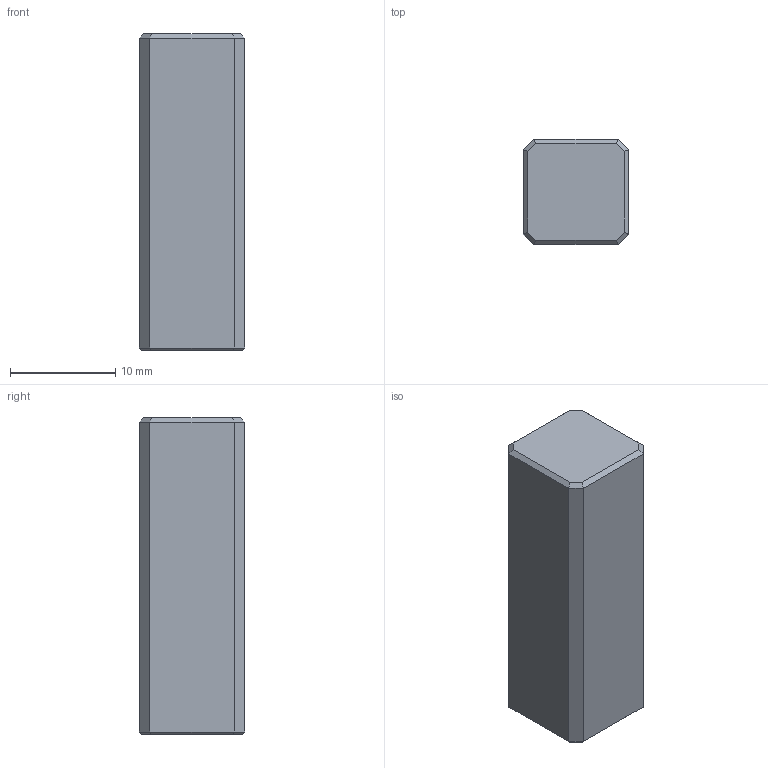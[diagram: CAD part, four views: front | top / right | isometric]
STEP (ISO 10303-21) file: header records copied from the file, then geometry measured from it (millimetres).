
FILE_DESCRIPTION(('Open CASCADE Model'),'2;1');
FILE_NAME('PN-PIN-knob-12','2026-10-19T21:24:15',('Author'),( 'Open CASCADE'),'Open CASCADE STEP processor 8.0','build123d', 'Unknown');
FILE_SCHEMA(('AUTOMOTIVE_DESIGN { 1 0 10303 214 1 1 1 1 }'));
Length unit declared in the file: millimetre
Products named in the file (2): PN-PIN-knob-12; brass_PN-PIN12__k
Assembly tree (1 placements, depth 2):
  PN-PIN-knob-12
    brass_PN-PIN12__k
Bounding box: 10 x 10 x 30 mm (x, y, z)
Volume: 2826.4 mm3; surface area: 1435 mm2
Topology: 1 solids, 1 shells, 30 faces, 62 edges, 36 vertices
Faces by surface type: plane 28, cylinder 2
Full cylindrical faces by diameter (mm): 3.3 x1, 5.1 x1
Entity records: 1596 total; most frequent: CARTESIAN_POINT 254, DIRECTION 254, LINE 178, VECTOR 178, ORIENTED_EDGE 124, PCURVE 124, DEFINITIONAL_REPRESENTATION 124, EDGE_CURVE 62
